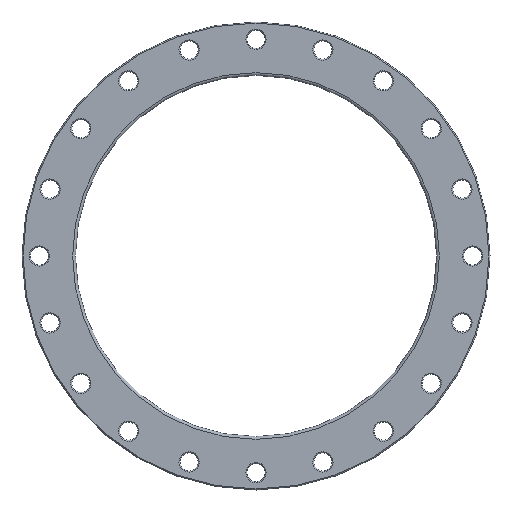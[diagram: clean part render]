
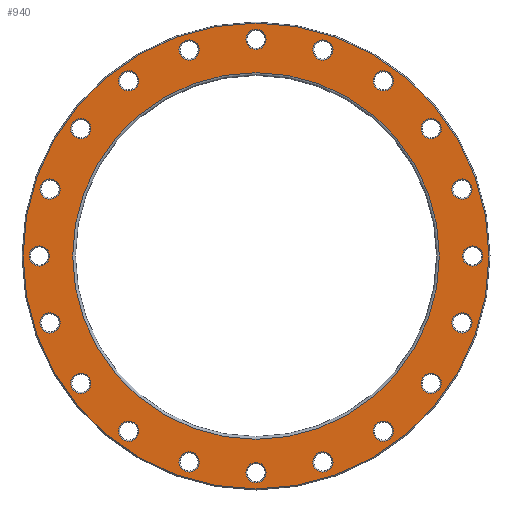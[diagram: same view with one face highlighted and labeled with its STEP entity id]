
A CAD part, front view. The second image highlights one B-rep face of the part: STEP entity #940.
In plain terms, the highlighted planar face has unit normal (0, -1, 0).
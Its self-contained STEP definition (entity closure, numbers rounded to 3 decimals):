
#23=PLANE('',#1104);
#206=ORIENTED_EDGE('',*,*,#325,.T.);
#207=ORIENTED_EDGE('',*,*,#326,.T.);
#208=ORIENTED_EDGE('',*,*,#244,.T.);
#209=ORIENTED_EDGE('',*,*,#248,.T.);
#210=ORIENTED_EDGE('',*,*,#252,.T.);
#211=ORIENTED_EDGE('',*,*,#256,.T.);
#212=ORIENTED_EDGE('',*,*,#260,.T.);
#213=ORIENTED_EDGE('',*,*,#264,.T.);
#214=ORIENTED_EDGE('',*,*,#268,.T.);
#215=ORIENTED_EDGE('',*,*,#272,.T.);
#216=ORIENTED_EDGE('',*,*,#276,.T.);
#217=ORIENTED_EDGE('',*,*,#280,.T.);
#218=ORIENTED_EDGE('',*,*,#284,.T.);
#219=ORIENTED_EDGE('',*,*,#288,.T.);
#220=ORIENTED_EDGE('',*,*,#292,.T.);
#221=ORIENTED_EDGE('',*,*,#296,.T.);
#222=ORIENTED_EDGE('',*,*,#300,.T.);
#223=ORIENTED_EDGE('',*,*,#304,.T.);
#224=ORIENTED_EDGE('',*,*,#308,.T.);
#225=ORIENTED_EDGE('',*,*,#312,.T.);
#226=ORIENTED_EDGE('',*,*,#316,.T.);
#227=ORIENTED_EDGE('',*,*,#327,.T.);
#244=EDGE_CURVE('',#332,#332,#420,.T.);
#248=EDGE_CURVE('',#336,#336,#424,.T.);
#252=EDGE_CURVE('',#340,#340,#428,.T.);
#256=EDGE_CURVE('',#344,#344,#432,.T.);
#260=EDGE_CURVE('',#348,#348,#436,.T.);
#264=EDGE_CURVE('',#352,#352,#440,.T.);
#268=EDGE_CURVE('',#356,#356,#444,.T.);
#272=EDGE_CURVE('',#360,#360,#448,.T.);
#276=EDGE_CURVE('',#364,#364,#452,.T.);
#280=EDGE_CURVE('',#368,#368,#456,.T.);
#284=EDGE_CURVE('',#372,#372,#460,.T.);
#288=EDGE_CURVE('',#376,#376,#464,.T.);
#292=EDGE_CURVE('',#380,#380,#468,.T.);
#296=EDGE_CURVE('',#384,#384,#472,.T.);
#300=EDGE_CURVE('',#388,#388,#476,.T.);
#304=EDGE_CURVE('',#392,#392,#480,.T.);
#308=EDGE_CURVE('',#396,#396,#484,.T.);
#312=EDGE_CURVE('',#400,#400,#488,.T.);
#316=EDGE_CURVE('',#404,#404,#492,.T.);
#325=EDGE_CURVE('',#413,#413,#501,.F.);
#326=EDGE_CURVE('',#414,#414,#502,.T.);
#327=EDGE_CURVE('',#415,#415,#503,.T.);
#332=VERTEX_POINT('',#1439);
#336=VERTEX_POINT('',#1450);
#340=VERTEX_POINT('',#1461);
#344=VERTEX_POINT('',#1472);
#348=VERTEX_POINT('',#1483);
#352=VERTEX_POINT('',#1494);
#356=VERTEX_POINT('',#1505);
#360=VERTEX_POINT('',#1516);
#364=VERTEX_POINT('',#1527);
#368=VERTEX_POINT('',#1538);
#372=VERTEX_POINT('',#1549);
#376=VERTEX_POINT('',#1560);
#380=VERTEX_POINT('',#1571);
#384=VERTEX_POINT('',#1582);
#388=VERTEX_POINT('',#1593);
#392=VERTEX_POINT('',#1604);
#396=VERTEX_POINT('',#1615);
#400=VERTEX_POINT('',#1626);
#404=VERTEX_POINT('',#1637);
#413=VERTEX_POINT('',#1660);
#414=VERTEX_POINT('',#1662);
#415=VERTEX_POINT('',#1664);
#420=CIRCLE('',#965,14.5);
#424=CIRCLE('',#972,14.5);
#428=CIRCLE('',#979,14.5);
#432=CIRCLE('',#986,14.5);
#436=CIRCLE('',#993,14.5);
#440=CIRCLE('',#1000,14.5);
#444=CIRCLE('',#1007,14.5);
#448=CIRCLE('',#1014,14.5);
#452=CIRCLE('',#1021,14.5);
#456=CIRCLE('',#1028,14.5);
#460=CIRCLE('',#1035,14.5);
#464=CIRCLE('',#1042,14.5);
#468=CIRCLE('',#1049,14.5);
#472=CIRCLE('',#1056,14.5);
#476=CIRCLE('',#1063,14.5);
#480=CIRCLE('',#1070,14.5);
#484=CIRCLE('',#1077,14.5);
#488=CIRCLE('',#1084,14.5);
#492=CIRCLE('',#1091,14.5);
#501=CIRCLE('',#1105,333.5);
#502=CIRCLE('',#1106,262.5);
#503=CIRCLE('',#1107,14.5);
#646=EDGE_LOOP('',(#206));
#647=EDGE_LOOP('',(#207));
#648=EDGE_LOOP('',(#208));
#649=EDGE_LOOP('',(#209));
#650=EDGE_LOOP('',(#210));
#651=EDGE_LOOP('',(#211));
#652=EDGE_LOOP('',(#212));
#653=EDGE_LOOP('',(#213));
#654=EDGE_LOOP('',(#214));
#655=EDGE_LOOP('',(#215));
#656=EDGE_LOOP('',(#216));
#657=EDGE_LOOP('',(#217));
#658=EDGE_LOOP('',(#218));
#659=EDGE_LOOP('',(#219));
#660=EDGE_LOOP('',(#220));
#661=EDGE_LOOP('',(#221));
#662=EDGE_LOOP('',(#222));
#663=EDGE_LOOP('',(#223));
#664=EDGE_LOOP('',(#224));
#665=EDGE_LOOP('',(#225));
#666=EDGE_LOOP('',(#226));
#667=EDGE_LOOP('',(#227));
#822=FACE_BOUND('',#646,.T.);
#823=FACE_BOUND('',#647,.T.);
#824=FACE_BOUND('',#648,.T.);
#825=FACE_BOUND('',#649,.T.);
#826=FACE_BOUND('',#650,.T.);
#827=FACE_BOUND('',#651,.T.);
#828=FACE_BOUND('',#652,.T.);
#829=FACE_BOUND('',#653,.T.);
#830=FACE_BOUND('',#654,.T.);
#831=FACE_BOUND('',#655,.T.);
#832=FACE_BOUND('',#656,.T.);
#833=FACE_BOUND('',#657,.T.);
#834=FACE_BOUND('',#658,.T.);
#835=FACE_BOUND('',#659,.T.);
#836=FACE_BOUND('',#660,.T.);
#837=FACE_BOUND('',#661,.T.);
#838=FACE_BOUND('',#662,.T.);
#839=FACE_BOUND('',#663,.T.);
#840=FACE_BOUND('',#664,.T.);
#841=FACE_BOUND('',#665,.T.);
#842=FACE_BOUND('',#666,.T.);
#843=FACE_BOUND('',#667,.T.);
#940=ADVANCED_FACE('',(#822,#823,#824,#825,#826,#827,#828,#829,#830,#831,
#832,#833,#834,#835,#836,#837,#838,#839,#840,#841,#842,#843),#23,.F.);
#965=AXIS2_PLACEMENT_3D('',#1438,#1127,#1128);
#972=AXIS2_PLACEMENT_3D('',#1449,#1141,#1142);
#979=AXIS2_PLACEMENT_3D('',#1460,#1155,#1156);
#986=AXIS2_PLACEMENT_3D('',#1471,#1169,#1170);
#993=AXIS2_PLACEMENT_3D('',#1482,#1183,#1184);
#1000=AXIS2_PLACEMENT_3D('',#1493,#1197,#1198);
#1007=AXIS2_PLACEMENT_3D('',#1504,#1211,#1212);
#1014=AXIS2_PLACEMENT_3D('',#1515,#1225,#1226);
#1021=AXIS2_PLACEMENT_3D('',#1526,#1239,#1240);
#1028=AXIS2_PLACEMENT_3D('',#1537,#1253,#1254);
#1035=AXIS2_PLACEMENT_3D('',#1548,#1267,#1268);
#1042=AXIS2_PLACEMENT_3D('',#1559,#1281,#1282);
#1049=AXIS2_PLACEMENT_3D('',#1570,#1295,#1296);
#1056=AXIS2_PLACEMENT_3D('',#1581,#1309,#1310);
#1063=AXIS2_PLACEMENT_3D('',#1592,#1323,#1324);
#1070=AXIS2_PLACEMENT_3D('',#1603,#1337,#1338);
#1077=AXIS2_PLACEMENT_3D('',#1614,#1351,#1352);
#1084=AXIS2_PLACEMENT_3D('',#1625,#1365,#1366);
#1091=AXIS2_PLACEMENT_3D('',#1636,#1379,#1380);
#1104=AXIS2_PLACEMENT_3D('',#1658,#1405,#1406);
#1105=AXIS2_PLACEMENT_3D('',#1659,#1407,#1408);
#1106=AXIS2_PLACEMENT_3D('',#1661,#1409,#1410);
#1107=AXIS2_PLACEMENT_3D('',#1663,#1411,#1412);
#1127=DIRECTION('',(0.,1.,0.));
#1128=DIRECTION('',(0.951,0.,0.309));
#1141=DIRECTION('',(0.,1.,0.));
#1142=DIRECTION('',(0.809,0.,0.588));
#1155=DIRECTION('',(0.,1.,0.));
#1156=DIRECTION('',(0.588,0.,0.809));
#1169=DIRECTION('',(0.,1.,0.));
#1170=DIRECTION('',(0.309,0.,0.951));
#1183=DIRECTION('',(0.,1.,0.));
#1184=DIRECTION('',(0.,0.,1.));
#1197=DIRECTION('',(0.,1.,0.));
#1198=DIRECTION('',(-0.309,0.,0.951));
#1211=DIRECTION('',(0.,1.,0.));
#1212=DIRECTION('',(-0.588,0.,0.809));
#1225=DIRECTION('',(0.,1.,0.));
#1226=DIRECTION('',(-0.809,0.,0.588));
#1239=DIRECTION('',(0.,1.,0.));
#1240=DIRECTION('',(-0.951,0.,0.309));
#1253=DIRECTION('',(0.,1.,0.));
#1254=DIRECTION('',(-1.,0.,0.));
#1267=DIRECTION('',(0.,1.,0.));
#1268=DIRECTION('',(-0.951,0.,-0.309));
#1281=DIRECTION('',(0.,1.,0.));
#1282=DIRECTION('',(-0.809,0.,-0.588));
#1295=DIRECTION('',(0.,1.,0.));
#1296=DIRECTION('',(-0.588,0.,-0.809));
#1309=DIRECTION('',(0.,1.,0.));
#1310=DIRECTION('',(-0.309,0.,-0.951));
#1323=DIRECTION('',(0.,1.,0.));
#1324=DIRECTION('',(0.,0.,-1.));
#1337=DIRECTION('',(0.,1.,0.));
#1338=DIRECTION('',(0.309,0.,-0.951));
#1351=DIRECTION('',(0.,1.,0.));
#1352=DIRECTION('',(0.588,0.,-0.809));
#1365=DIRECTION('',(0.,1.,0.));
#1366=DIRECTION('',(0.809,0.,-0.588));
#1379=DIRECTION('',(0.,1.,0.));
#1380=DIRECTION('',(0.951,0.,-0.309));
#1405=DIRECTION('',(0.,1.,0.));
#1406=DIRECTION('',(0.,0.,1.));
#1407=DIRECTION('',(0.,1.,0.));
#1408=DIRECTION('',(0.,0.,1.));
#1409=DIRECTION('',(0.,1.,0.));
#1410=DIRECTION('',(0.,0.,1.));
#1411=DIRECTION('',(0.,1.,0.));
#1412=DIRECTION('',(1.,0.,0.));
#1438=CARTESIAN_POINT('',(-95.795,0.,294.828));
#1439=CARTESIAN_POINT('',(-82.005,0.,299.308));
#1449=CARTESIAN_POINT('',(-182.213,0.,250.795));
#1450=CARTESIAN_POINT('',(-170.483,0.,259.318));
#1460=CARTESIAN_POINT('',(-250.795,0.,182.213));
#1461=CARTESIAN_POINT('',(-242.272,0.,193.944));
#1471=CARTESIAN_POINT('',(-294.828,0.,95.795));
#1472=CARTESIAN_POINT('',(-290.347,0.,109.586));
#1482=CARTESIAN_POINT('',(-310.,0.,0.));
#1483=CARTESIAN_POINT('',(-310.,0.,14.5));
#1493=CARTESIAN_POINT('',(-294.828,0.,-95.795));
#1494=CARTESIAN_POINT('',(-299.308,0.,-82.005));
#1504=CARTESIAN_POINT('',(-250.795,0.,-182.213));
#1505=CARTESIAN_POINT('',(-259.318,0.,-170.483));
#1515=CARTESIAN_POINT('',(-182.213,0.,-250.795));
#1516=CARTESIAN_POINT('',(-193.944,0.,-242.272));
#1526=CARTESIAN_POINT('',(-95.795,0.,-294.828));
#1527=CARTESIAN_POINT('',(-109.586,0.,-290.347));
#1537=CARTESIAN_POINT('',(0.,0.,-310.));
#1538=CARTESIAN_POINT('',(-14.5,0.,-310.));
#1548=CARTESIAN_POINT('',(95.795,0.,-294.828));
#1549=CARTESIAN_POINT('',(82.005,0.,-299.308));
#1559=CARTESIAN_POINT('',(182.213,0.,-250.795));
#1560=CARTESIAN_POINT('',(170.483,0.,-259.318));
#1570=CARTESIAN_POINT('',(250.795,0.,-182.213));
#1571=CARTESIAN_POINT('',(242.272,0.,-193.944));
#1581=CARTESIAN_POINT('',(294.828,0.,-95.795));
#1582=CARTESIAN_POINT('',(290.347,0.,-109.586));
#1592=CARTESIAN_POINT('',(310.,0.,0.));
#1593=CARTESIAN_POINT('',(310.,0.,-14.5));
#1603=CARTESIAN_POINT('',(294.828,0.,95.795));
#1604=CARTESIAN_POINT('',(299.308,0.,82.005));
#1614=CARTESIAN_POINT('',(250.795,0.,182.213));
#1615=CARTESIAN_POINT('',(259.318,0.,170.483));
#1625=CARTESIAN_POINT('',(182.213,0.,250.795));
#1626=CARTESIAN_POINT('',(193.944,0.,242.272));
#1636=CARTESIAN_POINT('',(95.795,0.,294.828));
#1637=CARTESIAN_POINT('',(109.586,0.,290.347));
#1658=CARTESIAN_POINT('',(0.,0.,0.));
#1659=CARTESIAN_POINT('',(0.,0.,0.));
#1660=CARTESIAN_POINT('',(0.,0.,333.5));
#1661=CARTESIAN_POINT('',(0.,0.,0.));
#1662=CARTESIAN_POINT('',(0.,0.,262.5));
#1663=CARTESIAN_POINT('',(0.,0.,310.));
#1664=CARTESIAN_POINT('',(14.5,0.,310.));
